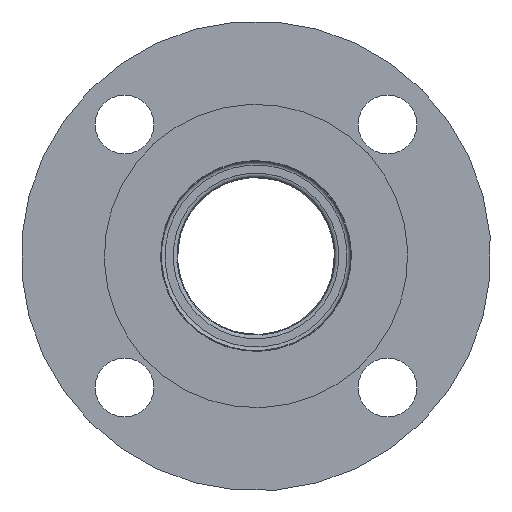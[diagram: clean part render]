
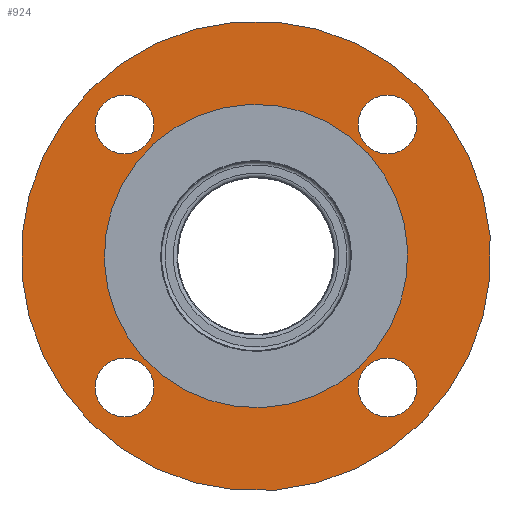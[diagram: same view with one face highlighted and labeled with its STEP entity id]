
A CAD part, front view. The second image highlights one B-rep face of the part: STEP entity #924.
In plain terms, the highlighted planar face has unit normal (0, -1, 0) as drawn and (0, 0, -1) by its records, which use the part's own axes.
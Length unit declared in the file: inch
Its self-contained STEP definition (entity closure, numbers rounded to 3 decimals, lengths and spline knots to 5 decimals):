
#829=CARTESIAN_POINT('',(1.625,0.,0.0));
#830=VERTEX_POINT('',#829);
#831=CARTESIAN_POINT('',(0.0,0.0,0.0));
#832=DIRECTION('',(0.0,0.0,-1.0));
#833=DIRECTION('',(-1.0,0.0,0.0));
#834=AXIS2_PLACEMENT_3D('',#831,#832,#833);
#835=CIRCLE('',#834,1.625);
#836=EDGE_CURVE('',#830,#830,#835,.T.);
#861=CARTESIAN_POINT('',(0.0,0.0,0.0));
#862=DIRECTION('',(0.0,0.0,-1.0));
#863=DIRECTION('',(-1.0,0.0,0.0));
#864=AXIS2_PLACEMENT_3D('',#861,#862,#863);
#865=PLANE('',#864);
#866=CARTESIAN_POINT('',(3.0,0.,0.0));
#867=VERTEX_POINT('',#866);
#868=CARTESIAN_POINT('',(0.0,0.0,0.0));
#869=DIRECTION('',(0.0,0.0,-1.0));
#870=DIRECTION('',(-1.0,0.0,0.0));
#871=AXIS2_PLACEMENT_3D('',#868,#869,#870);
#872=CIRCLE('',#871,3.0);
#873=EDGE_CURVE('',#867,#867,#872,.T.);
#874=ORIENTED_EDGE('',*,*,#873,.T.);
#875=EDGE_LOOP('',(#874));
#876=FACE_OUTER_BOUND('',#875,.T.);
#877=CARTESIAN_POINT('',(-0.375,2.375,0.0));
#878=VERTEX_POINT('',#877);
#879=CARTESIAN_POINT('',(0.0,2.375,0.0));
#880=DIRECTION('',(0.0,0.0,1.0));
#881=DIRECTION('',(-1.0,0.0,0.0));
#882=AXIS2_PLACEMENT_3D('',#879,#880,#881);
#883=CIRCLE('',#882,0.375);
#884=EDGE_CURVE('',#878,#878,#883,.T.);
#885=ORIENTED_EDGE('',*,*,#884,.T.);
#886=EDGE_LOOP('',(#885));
#887=FACE_BOUND('',#886,.T.);
#888=CARTESIAN_POINT('',(-2.375,-0.375,0.0));
#889=VERTEX_POINT('',#888);
#890=CARTESIAN_POINT('',(-2.375,0.,0.0));
#891=DIRECTION('',(0.0,0.0,1.0));
#892=DIRECTION('',(0.0,-1.0,0.0));
#893=AXIS2_PLACEMENT_3D('',#890,#891,#892);
#894=CIRCLE('',#893,0.375);
#895=EDGE_CURVE('',#889,#889,#894,.T.);
#896=ORIENTED_EDGE('',*,*,#895,.T.);
#897=EDGE_LOOP('',(#896));
#898=FACE_BOUND('',#897,.T.);
#899=CARTESIAN_POINT('',(0.375,-2.375,0.0));
#900=VERTEX_POINT('',#899);
#901=CARTESIAN_POINT('',(0.,-2.375,0.0));
#902=DIRECTION('',(0.0,0.0,1.0));
#903=DIRECTION('',(1.0,0.0,0.0));
#904=AXIS2_PLACEMENT_3D('',#901,#902,#903);
#905=CIRCLE('',#904,0.375);
#906=EDGE_CURVE('',#900,#900,#905,.T.);
#907=ORIENTED_EDGE('',*,*,#906,.T.);
#908=EDGE_LOOP('',(#907));
#909=FACE_BOUND('',#908,.T.);
#910=CARTESIAN_POINT('',(2.375,0.375,0.0));
#911=VERTEX_POINT('',#910);
#912=CARTESIAN_POINT('',(2.375,0.,0.0));
#913=DIRECTION('',(0.0,0.0,1.0));
#914=DIRECTION('',(0.0,1.0,0.0));
#915=AXIS2_PLACEMENT_3D('',#912,#913,#914);
#916=CIRCLE('',#915,0.375);
#917=EDGE_CURVE('',#911,#911,#916,.T.);
#918=ORIENTED_EDGE('',*,*,#917,.T.);
#919=EDGE_LOOP('',(#918));
#920=FACE_BOUND('',#919,.T.);
#921=ORIENTED_EDGE('',*,*,#836,.F.);
#922=EDGE_LOOP('',(#921));
#923=FACE_BOUND('',#922,.T.);
#924=ADVANCED_FACE('',(#876,#887,#898,#909,#920,#923),#865,.T.);
